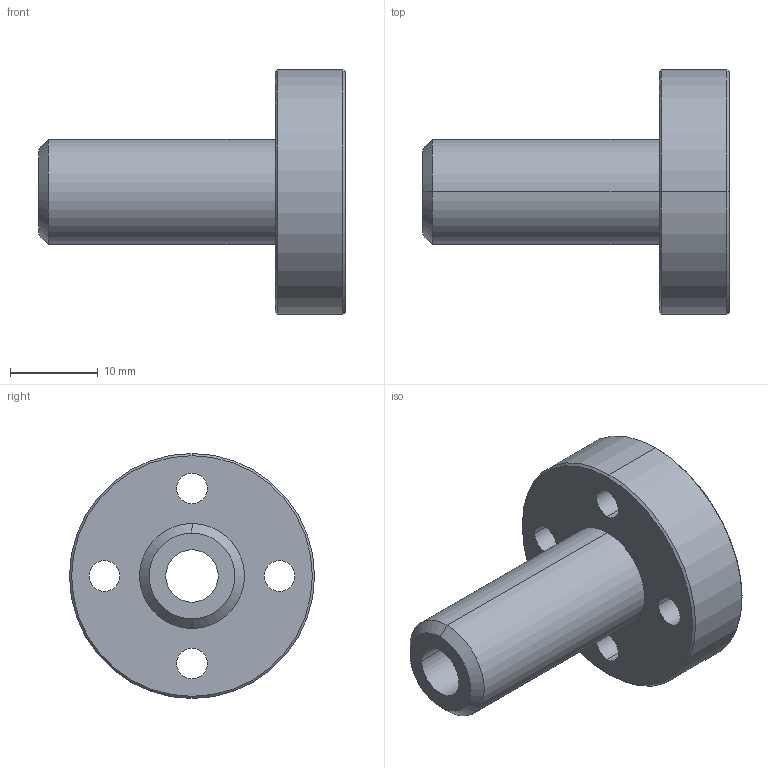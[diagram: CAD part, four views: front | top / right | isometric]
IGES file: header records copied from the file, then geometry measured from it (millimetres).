
Start section: 3D InterOp IGES (Version 21 0 1), Spatial Corp. Copyright (c) 1999-2007.
Global section: file name: DFPJR06.igs; native system: Spatial Corp.; preprocessor: 3D InterOp GENERIC/IGES 3.0; author: Noname; organization: Noname; date: 20220324.144140; units: millimetre
Bounding box: 35 x 28 x 28 mm (x, y, z)
Surface area: 3876.4 mm2 (no closed solid volume)
Topology: 0 solids, 0 shells, 35 faces, 156 edges, 156 vertices
Faces by surface type: revolution 28, extrusion 7
